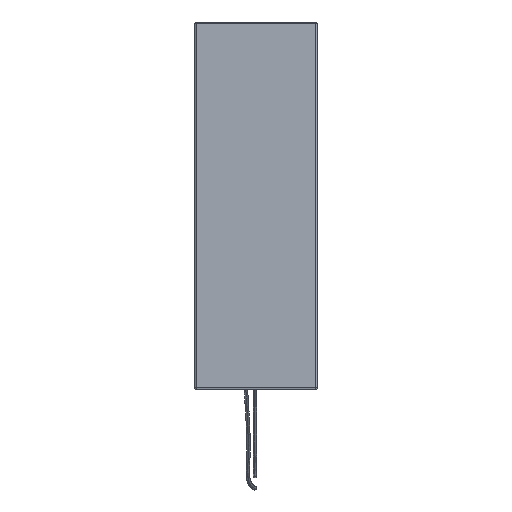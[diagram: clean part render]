
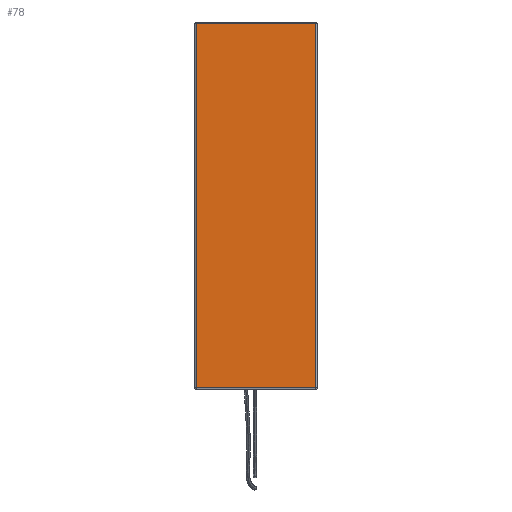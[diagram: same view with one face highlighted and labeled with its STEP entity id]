
A CAD part, top view. The second image highlights one B-rep face of the part: STEP entity #78.
In plain terms, the highlighted planar face has unit normal (0, 0, 1).
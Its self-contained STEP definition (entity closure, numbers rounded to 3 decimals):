
#21=B_SPLINE_CURVE_WITH_KNOTS('',1,(#1945,#1946),.UNSPECIFIED.,.F.,.F.,
(2,2),(2.,414.),.UNSPECIFIED.);
#22=B_SPLINE_CURVE_WITH_KNOTS('',1,(#1947,#1948),.UNSPECIFIED.,.F.,.F.,
(2,2),(2.,137.),.UNSPECIFIED.);
#23=B_SPLINE_CURVE_WITH_KNOTS('',1,(#1949,#1950),.UNSPECIFIED.,.F.,.F.,
(2,2),(2.,414.),.UNSPECIFIED.);
#24=B_SPLINE_CURVE_WITH_KNOTS('',1,(#1951,#1952),.UNSPECIFIED.,.F.,.F.,
(2,2),(2.,137.),.UNSPECIFIED.);
#78=ADVANCED_FACE('',(#122),#560,.T.);
#122=FACE_OUTER_BOUND('',#168,.T.);
#168=EDGE_LOOP('',(#232,#233,#234,#235));
#232=ORIENTED_EDGE('',*,*,#385,.T.);
#233=ORIENTED_EDGE('',*,*,#388,.F.);
#234=ORIENTED_EDGE('',*,*,#387,.F.);
#235=ORIENTED_EDGE('',*,*,#386,.T.);
#385=EDGE_CURVE('',#523,#524,#21,.T.);
#386=EDGE_CURVE('',#525,#523,#22,.T.);
#387=EDGE_CURVE('',#525,#526,#23,.T.);
#388=EDGE_CURVE('',#526,#524,#24,.T.);
#523=VERTEX_POINT('',#1900);
#524=VERTEX_POINT('',#1901);
#525=VERTEX_POINT('',#1902);
#526=VERTEX_POINT('',#1903);
#560=PLANE('',#624);
#624=AXIS2_PLACEMENT_3D('',#1130,#639,$);
#639=DIRECTION('',(0.,0.,1.));
#1130=CARTESIAN_POINT('',(-68.262,360.679,917.71));
#1900=CARTESIAN_POINT('',(-66.262,358.679,917.71));
#1901=CARTESIAN_POINT('',(-66.262,-53.321,917.71));
#1902=CARTESIAN_POINT('',(68.738,358.679,917.71));
#1903=CARTESIAN_POINT('',(68.738,-53.321,917.71));
#1945=CARTESIAN_POINT('',(-66.262,358.679,917.71));
#1946=CARTESIAN_POINT('',(-66.262,-53.321,917.71));
#1947=CARTESIAN_POINT('',(68.738,358.679,917.71));
#1948=CARTESIAN_POINT('',(-66.262,358.679,917.71));
#1949=CARTESIAN_POINT('',(68.738,358.679,917.71));
#1950=CARTESIAN_POINT('',(68.738,-53.321,917.71));
#1951=CARTESIAN_POINT('',(68.738,-53.321,917.71));
#1952=CARTESIAN_POINT('',(-66.262,-53.321,917.71));
